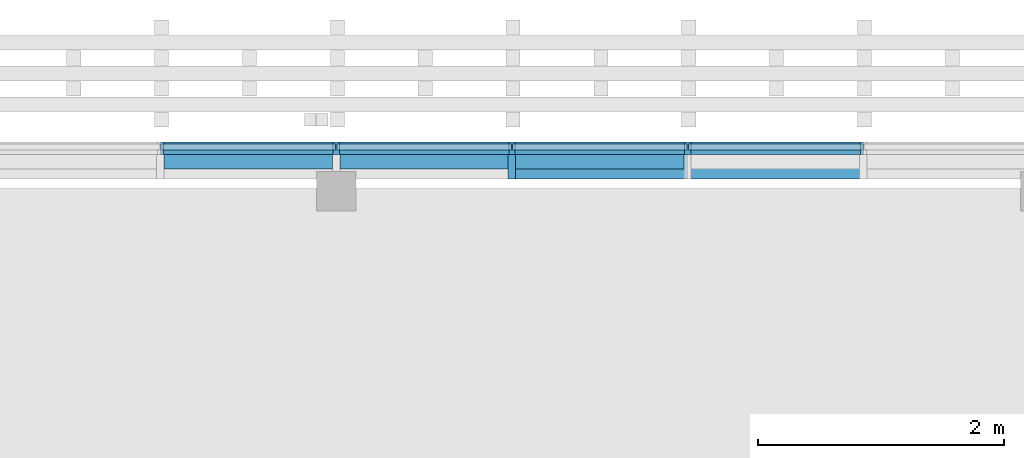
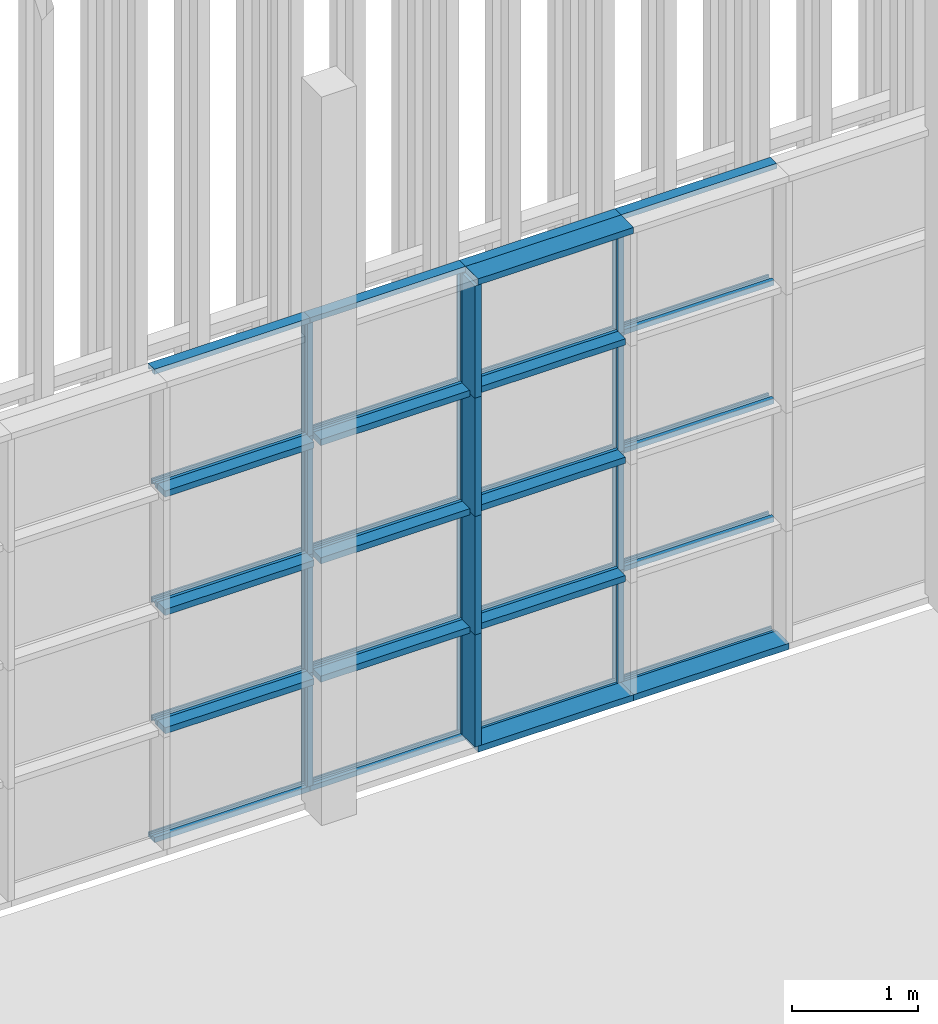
# One storey, part 34 of 260: 48 members, 2 elements without a shape of their own.
"""IFC2X3 building model written with IfcOpenShell, lengths in millimetres."""

from ifc_helpers import new_model, entity, si_unit, converted_unit, derived_unit, money_unit, direction, frame, origin_with_axes, place, context, subcontext, project, spatial, faceted_brep, source, transform, mapped, material, type_object, element, aggregate, save


model = new_model("IFC2X3")

# Units and contexts
model_context = context("Model", 3, precision=0.01, world=origin_with_axes(), true_north=direction((0.0, 1.0)))
body_context = subcontext(model_context, "Body", "Model", "MODEL_VIEW")
ifc_project = project(units=[si_unit("LENGTHUNIT", "METRE", prefix="MILLI"), si_unit("AREAUNIT", "SQUARE_METRE"), si_unit("VOLUMEUNIT", "CUBIC_METRE"), converted_unit("PLANEANGLEUNIT", "DEGREE", entity("IfcPlaneAngleMeasure", 0.0174532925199), si_unit("PLANEANGLEUNIT", "RADIAN"), dimensions=[0, 0, 0, 0, 0, 0, 0]), money_unit("EUR"), converted_unit("TIMEUNIT", "Year", entity("IfcTimeMeasure", 31556926.0), si_unit("TIMEUNIT", "SECOND"), dimensions=[0, 0, 1, 0, 0, 0, 0]), si_unit("MASSUNIT", "GRAM", prefix="KILO"), si_unit("THERMODYNAMICTEMPERATUREUNIT", "DEGREE_CELSIUS"), si_unit("LUMINOUSINTENSITYUNIT", "LUMEN"), si_unit("ENERGYUNIT", "JOULE", prefix="MEGA"), derived_unit("THERMALCONDUCTANCEUNIT", [(si_unit("POWERUNIT", "WATT"), 1), (si_unit("LENGTHUNIT", "METRE"), -1), (si_unit("THERMODYNAMICTEMPERATUREUNIT", "KELVIN"), -1)]), derived_unit("SPECIFICHEATCAPACITYUNIT", [(si_unit("ENERGYUNIT", "JOULE"), 1), (si_unit("MASSUNIT", "GRAM", prefix="KILO"), -1), (si_unit("THERMODYNAMICTEMPERATUREUNIT", "KELVIN"), -1)]), derived_unit("MASSDENSITYUNIT", [(si_unit("MASSUNIT", "GRAM", prefix="KILO"), 1), (si_unit("VOLUMEUNIT", "CUBIC_METRE"), -1)])], contexts=[model_context])

# Site, building, storey
site_placement = place(None, origin_with_axes())
site = spatial("IfcSite", under=ifc_project, at=site_placement, Name="Kolde pst 67a", CompositionType="ELEMENT")
building_placement = place(site_placement, origin_with_axes())
building = spatial("IfcBuilding", under=site, at=building_placement, Name="Riigigümnaasium", CompositionType="ELEMENT")
storey_placement = place(building_placement, origin_with_axes())
storey = spatial("IfcBuildingStorey", under=building, at=storey_placement, Name="1. korrus", CompositionType="ELEMENT", Elevation=0.0)

# Curtain wall, members
curtain_wall_type = type_object("IfcCurtainWallType", Name="Curtain Wall Type", PredefinedType="NOTDEFINED")
curtain_wall_1_placement = place(storey_placement, frame((10366.0828546, 84639.9999608, 0.0), z_axis=(0.0, 0.0, 1.0), x_axis=(1.0, 0.0, 0.0)))
curtain_wall_1 = element("IfcCurtainWall", 1, at=curtain_wall_1_placement, inside=storey, type_object=curtain_wall_type, Name="KLAASFASSAAD")
ifc_material_1 = material(Name="_METALL - alumiinium")
member_type_1 = type_object("IfcMemberType", Name="Boundary Frame 50 x 100", PredefinedType="MEMBER")
shared_shape_1 = source(origin_with_axes(), body_context, "Body", "Brep", [
    faceted_brep([(-30.0, -24.0, 1430.0), (-50.0, -24.0, 1430.0), (-50.0, -60.0, 1430.0), (0.0, -60.0, 1430.0), (0.0, 40.0, 1430.0), (-50.0, 40.0, 1430.0), (-50.0, 24.0, 1430.0), (-30.0, 24.0, 1430.0), (-30.0, -24.0, 0.0), (-50.0, -24.0, 0.0), (-50.0, -60.0, 0.0), (0.0, -60.0, 0.0), (0.0, 40.0, 0.0), (-50.0, 40.0, 0.0), (-50.0, 24.0, 0.0), (-30.0, 24.0, 0.0)], [[[0, 1, 2, 3, 4, 5, 6, 7]], [[0, 8, 9, 1]], [[9, 10, 2, 1]], [[10, 11, 3, 2]], [[11, 12, 4, 3]], [[12, 13, 5, 4]], [[6, 5, 13, 14]], [[14, 15, 7, 6]], [[7, 15, 8, 0]], [[8, 15, 14, 13, 12, 11, 10, 9]]]),
])
member_1_placement = place(curtain_wall_1_placement, frame((9295.0, 0.0, 0.0), z_axis=(1.0, 0.0, 0.0), x_axis=(0.0, 0.0, 1.0)))
member_1 = element("IfcMember", 2, at=member_1_placement, type_object=member_type_1, material=ifc_material_1, Name="RF RAAM SERV-083", ObjectType="MEMBER", context=body_context, shape_type="MappedRepresentation", body=[
    mapped(shared_shape_1, transform((0.0, 0.0, 0.0), x_axis=(-1.0, 0.0, 0.0), y_axis=(0.0, -1.0, 0.0), z_axis=(0.0, 0.0, 1.0))),
])
member_2_placement = place(curtain_wall_1_placement, frame((10725.0, 0.0, 0.0), z_axis=(1.0, 0.0, 0.0), x_axis=(0.0, 0.0, 1.0)))
member_2 = element("IfcMember", 3, at=member_2_placement, type_object=member_type_1, material=ifc_material_1, Name="RF RAAM SERV-084", ObjectType="MEMBER", context=body_context, shape_type="MappedRepresentation", body=[
    mapped(shared_shape_1, transform((0.0, 0.0, 0.0), x_axis=(-1.0, 0.0, 0.0), y_axis=(0.0, -1.0, 0.0), z_axis=(0.0, 0.0, 1.0))),
])
member_3_placement = place(curtain_wall_1_placement, frame((12155.0, 0.0, 0.0), z_axis=(1.0, 0.0, 0.0), x_axis=(0.0, 0.0, 1.0)))
member_3 = element("IfcMember", 4, at=member_3_placement, type_object=member_type_1, material=ifc_material_1, Name="RF RAAM SERV-085", ObjectType="MEMBER", context=body_context, shape_type="MappedRepresentation", body=[
    mapped(shared_shape_1, transform((0.0, 0.0, 0.0), x_axis=(-1.0, 0.0, 0.0), y_axis=(0.0, -1.0, 0.0), z_axis=(0.0, 0.0, 1.0))),
])
member_4_placement = place(curtain_wall_1_placement, frame((13585.0, 0.0, 0.0), z_axis=(1.0, 0.0, 0.0), x_axis=(0.0, 0.0, 1.0)))
member_4 = element("IfcMember", 5, at=member_4_placement, type_object=member_type_1, material=ifc_material_1, Name="RF RAAM SERV-086", ObjectType="MEMBER", context=body_context, shape_type="MappedRepresentation", body=[
    mapped(shared_shape_1, transform((0.0, 0.0, 0.0), x_axis=(-1.0, 0.0, 0.0), y_axis=(0.0, -1.0, 0.0), z_axis=(0.0, 0.0, 1.0))),
])
member_type_2 = type_object("IfcMemberType", Name="Transom Frame 50 x 100", PredefinedType="MEMBER")
shared_shape_2 = source(origin_with_axes(), body_context, "Body", "Brep", [
    faceted_brep([(5.0, -24.0, 1405.0), (5.0, 24.0, 1405.0), (25.0, 24.0, 1405.0), (25.0, 40.0, 1405.0), (-25.0, 40.0, 1405.0), (-25.0, 24.0, 1405.0), (-5.0, 24.0, 1405.0), (-5.0, -24.0, 1405.0), (-25.0, -24.0, 1405.0), (-25.0, -60.0, 1405.0), (25.0, -60.0, 1405.0), (25.0, -24.0, 1405.0), (5.0, -24.0, 25.0), (5.0, 24.0, 25.0), (25.0, 24.0, 25.0), (25.0, 40.0, 25.0), (-25.0, 40.0, 25.0), (-25.0, 24.0, 25.0), (-5.0, 24.0, 25.0), (-5.0, -24.0, 25.0), (-25.0, -24.0, 25.0), (-25.0, -60.0, 25.0), (25.0, -60.0, 25.0), (25.0, -24.0, 25.0)], [[[0, 1, 2, 3, 4, 5, 6, 7, 8, 9, 10, 11]], [[0, 12, 13, 1]], [[1, 13, 14, 2]], [[14, 15, 3, 2]], [[4, 3, 15, 16]], [[17, 5, 4, 16]], [[5, 17, 18, 6]], [[7, 6, 18, 19]], [[8, 7, 19, 20]], [[8, 20, 21, 9]], [[10, 9, 21, 22]], [[11, 10, 22, 23]], [[11, 23, 12, 0]], [[13, 12, 23, 22, 21, 20, 19, 18, 17, 16, 15, 14]]]),
])
member_5_placement = place(curtain_wall_1_placement, frame((9295.0, 0.0, 1150.0), z_axis=(1.0, 0.0, 0.0), x_axis=(0.0, 0.0, 1.0)))
member_5 = element("IfcMember", 6, at=member_5_placement, type_object=member_type_2, material=ifc_material_1, Name="RF RAAM HOR-798", ObjectType="MEMBER", context=body_context, shape_type="MappedRepresentation", body=[
    mapped(shared_shape_2, transform((0.0, 0.0, 0.0), x_axis=(-1.0, 0.0, 0.0), y_axis=(0.0, -1.0, 0.0), z_axis=(0.0, 0.0, 1.0))),
])
member_6_placement = place(curtain_wall_1_placement, frame((10725.0, 0.0, 1150.0), z_axis=(1.0, 0.0, 0.0), x_axis=(0.0, 0.0, 1.0)))
member_6 = element("IfcMember", 7, at=member_6_placement, type_object=member_type_2, material=ifc_material_1, Name="RF RAAM HOR-798", ObjectType="MEMBER", context=body_context, shape_type="MappedRepresentation", body=[
    mapped(shared_shape_2, transform((0.0, 0.0, 0.0), x_axis=(-1.0, 0.0, 0.0), y_axis=(0.0, -1.0, 0.0), z_axis=(0.0, 0.0, 1.0))),
])
member_7_placement = place(curtain_wall_1_placement, frame((12155.0, 0.0, 1150.0), z_axis=(1.0, 0.0, 0.0), x_axis=(0.0, 0.0, 1.0)))
member_7 = element("IfcMember", 8, at=member_7_placement, type_object=member_type_2, material=ifc_material_1, Name="RF RAAM HOR-798", ObjectType="MEMBER", context=body_context, shape_type="MappedRepresentation", body=[
    mapped(shared_shape_2, transform((0.0, 0.0, 0.0), x_axis=(-1.0, 0.0, 0.0), y_axis=(0.0, -1.0, 0.0), z_axis=(0.0, 0.0, 1.0))),
])
member_8_placement = place(curtain_wall_1_placement, frame((13585.0, 0.0, 1150.0), z_axis=(1.0, 0.0, 0.0), x_axis=(0.0, 0.0, 1.0)))
member_8 = element("IfcMember", 9, at=member_8_placement, type_object=member_type_2, material=ifc_material_1, Name="RF RAAM HOR-798", ObjectType="MEMBER", context=body_context, shape_type="MappedRepresentation", body=[
    mapped(shared_shape_2, transform((0.0, 0.0, 0.0), x_axis=(-1.0, 0.0, 0.0), y_axis=(0.0, -1.0, 0.0), z_axis=(0.0, 0.0, 1.0))),
])
member_9_placement = place(curtain_wall_1_placement, frame((9295.0, 0.0, 2300.0), z_axis=(1.0, 0.0, 0.0), x_axis=(0.0, 0.0, 1.0)))
member_9 = element("IfcMember", 10, at=member_9_placement, type_object=member_type_2, material=ifc_material_1, Name="RF RAAM HOR-798", ObjectType="MEMBER", context=body_context, shape_type="MappedRepresentation", body=[
    mapped(shared_shape_2, transform((0.0, 0.0, 0.0), x_axis=(-1.0, 0.0, 0.0), y_axis=(0.0, -1.0, 0.0), z_axis=(0.0, 0.0, 1.0))),
])
member_10_placement = place(curtain_wall_1_placement, frame((10725.0, 0.0, 2300.0), z_axis=(1.0, 0.0, 0.0), x_axis=(0.0, 0.0, 1.0)))
member_10 = element("IfcMember", 11, at=member_10_placement, type_object=member_type_2, material=ifc_material_1, Name="RF RAAM HOR-798", ObjectType="MEMBER", context=body_context, shape_type="MappedRepresentation", body=[
    mapped(shared_shape_2, transform((0.0, 0.0, 0.0), x_axis=(-1.0, 0.0, 0.0), y_axis=(0.0, -1.0, 0.0), z_axis=(0.0, 0.0, 1.0))),
])
member_11_placement = place(curtain_wall_1_placement, frame((12155.0, 0.0, 2300.0), z_axis=(1.0, 0.0, 0.0), x_axis=(0.0, 0.0, 1.0)))
member_11 = element("IfcMember", 12, at=member_11_placement, type_object=member_type_2, material=ifc_material_1, Name="RF RAAM HOR-798", ObjectType="MEMBER", context=body_context, shape_type="MappedRepresentation", body=[
    mapped(shared_shape_2, transform((0.0, 0.0, 0.0), x_axis=(-1.0, 0.0, 0.0), y_axis=(0.0, -1.0, 0.0), z_axis=(0.0, 0.0, 1.0))),
])
member_12_placement = place(curtain_wall_1_placement, frame((13585.0, 0.0, 2300.0), z_axis=(1.0, 0.0, 0.0), x_axis=(0.0, 0.0, 1.0)))
member_12 = element("IfcMember", 13, at=member_12_placement, type_object=member_type_2, material=ifc_material_1, Name="RF RAAM HOR-798", ObjectType="MEMBER", context=body_context, shape_type="MappedRepresentation", body=[
    mapped(shared_shape_2, transform((0.0, 0.0, 0.0), x_axis=(-1.0, 0.0, 0.0), y_axis=(0.0, -1.0, 0.0), z_axis=(0.0, 0.0, 1.0))),
])
member_13_placement = place(curtain_wall_1_placement, frame((9295.0, 0.0, 3450.0), z_axis=(1.0, 0.0, 0.0), x_axis=(0.0, 0.0, 1.0)))
member_13 = element("IfcMember", 14, at=member_13_placement, type_object=member_type_2, material=ifc_material_1, Name="RF RAAM HOR-798", ObjectType="MEMBER", context=body_context, shape_type="MappedRepresentation", body=[
    mapped(shared_shape_2, transform((0.0, 0.0, 0.0), x_axis=(-1.0, 0.0, 0.0), y_axis=(0.0, -1.0, 0.0), z_axis=(0.0, 0.0, 1.0))),
])
member_14_placement = place(curtain_wall_1_placement, frame((10725.0, 0.0, 3450.0), z_axis=(1.0, 0.0, 0.0), x_axis=(0.0, 0.0, 1.0)))
member_14 = element("IfcMember", 15, at=member_14_placement, type_object=member_type_2, material=ifc_material_1, Name="RF RAAM HOR-798", ObjectType="MEMBER", context=body_context, shape_type="MappedRepresentation", body=[
    mapped(shared_shape_2, transform((0.0, 0.0, 0.0), x_axis=(-1.0, 0.0, 0.0), y_axis=(0.0, -1.0, 0.0), z_axis=(0.0, 0.0, 1.0))),
])
member_15_placement = place(curtain_wall_1_placement, frame((12155.0, 0.0, 3450.0), z_axis=(1.0, 0.0, 0.0), x_axis=(0.0, 0.0, 1.0)))
member_15 = element("IfcMember", 16, at=member_15_placement, type_object=member_type_2, material=ifc_material_1, Name="RF RAAM HOR-798", ObjectType="MEMBER", context=body_context, shape_type="MappedRepresentation", body=[
    mapped(shared_shape_2, transform((0.0, 0.0, 0.0), x_axis=(-1.0, 0.0, 0.0), y_axis=(0.0, -1.0, 0.0), z_axis=(0.0, 0.0, 1.0))),
])
member_16_placement = place(curtain_wall_1_placement, frame((13585.0, 0.0, 3450.0), z_axis=(1.0, 0.0, 0.0), x_axis=(0.0, 0.0, 1.0)))
member_16 = element("IfcMember", 17, at=member_16_placement, type_object=member_type_2, material=ifc_material_1, Name="RF RAAM HOR-798", ObjectType="MEMBER", context=body_context, shape_type="MappedRepresentation", body=[
    mapped(shared_shape_2, transform((0.0, 0.0, 0.0), x_axis=(-1.0, 0.0, 0.0), y_axis=(0.0, -1.0, 0.0), z_axis=(0.0, 0.0, 1.0))),
])
member_type_3 = type_object("IfcMemberType", Name="Mullion Frame 50 x 100", PredefinedType="MEMBER")
shared_shape_3 = source(origin_with_axes(), body_context, "Body", "Brep", [
    faceted_brep([(5.0, -24.0, 1150.0), (5.0, 24.0, 1150.0), (25.0, 24.0, 1150.0), (25.0, 40.0, 1150.0), (-25.0, 40.0, 1150.0), (-25.0, 24.0, 1150.0), (-5.0, 24.0, 1150.0), (-5.0, -24.0, 1150.0), (-25.0, -24.0, 1150.0), (-25.0, -60.0, 1150.0), (25.0, -60.0, 1150.0), (25.0, -24.0, 1150.0), (5.0, -24.0, 50.0), (5.0, 24.0, 50.0), (25.0, 24.0, 50.0), (25.0, 40.0, 50.0), (-25.0, 40.0, 50.0), (-25.0, 24.0, 50.0), (-5.0, 24.0, 50.0), (-5.0, -24.0, 50.0), (-25.0, -24.0, 50.0), (-25.0, -60.0, 50.0), (25.0, -60.0, 50.0), (25.0, -24.0, 50.0)], [[[0, 1, 2, 3, 4, 5, 6, 7, 8, 9, 10, 11]], [[0, 12, 13, 1]], [[1, 13, 14, 2]], [[14, 15, 3, 2]], [[4, 3, 15, 16]], [[17, 5, 4, 16]], [[5, 17, 18, 6]], [[7, 6, 18, 19]], [[8, 7, 19, 20]], [[8, 20, 21, 9]], [[10, 9, 21, 22]], [[11, 10, 22, 23]], [[11, 23, 12, 0]], [[13, 12, 23, 22, 21, 20, 19, 18, 17, 16, 15, 14]]]),
])
member_17_placement = place(curtain_wall_1_placement, frame((10725.0, 0.0, 0.0), z_axis=(0.0, 0.0, 1.0), x_axis=(-1.0, 0.0, 0.0)))
member_17 = element("IfcMember", 18, at=member_17_placement, type_object=member_type_3, material=ifc_material_1, Name="RF RAAM VERT-904", ObjectType="MEMBER", context=body_context, shape_type="MappedRepresentation", body=[
    mapped(shared_shape_3, transform((0.0, 0.0, 0.0), x_axis=(-1.0, 0.0, 0.0), y_axis=(0.0, -1.0, 0.0), z_axis=(0.0, 0.0, 1.0))),
])
member_18_placement = place(curtain_wall_1_placement, frame((12155.0, 0.0, 0.0), z_axis=(0.0, 0.0, 1.0), x_axis=(-1.0, 0.0, 0.0)))
member_18 = element("IfcMember", 19, at=member_18_placement, type_object=member_type_3, material=ifc_material_1, Name="RF RAAM VERT-904", ObjectType="MEMBER", context=body_context, shape_type="MappedRepresentation", body=[
    mapped(shared_shape_3, transform((0.0, 0.0, 0.0), x_axis=(-1.0, 0.0, 0.0), y_axis=(0.0, -1.0, 0.0), z_axis=(0.0, 0.0, 1.0))),
])
member_19_placement = place(curtain_wall_1_placement, frame((13585.0, 0.0, 0.0), z_axis=(0.0, 0.0, 1.0), x_axis=(-1.0, 0.0, 0.0)))
member_19 = element("IfcMember", 20, at=member_19_placement, type_object=member_type_3, material=ifc_material_1, Name="RF RAAM VERT-904", ObjectType="MEMBER", context=body_context, shape_type="MappedRepresentation", body=[
    mapped(shared_shape_3, transform((0.0, 0.0, 0.0), x_axis=(-1.0, 0.0, 0.0), y_axis=(0.0, -1.0, 0.0), z_axis=(0.0, 0.0, 1.0))),
])
shared_shape_4 = source(origin_with_axes(), body_context, "Body", "Brep", [
    faceted_brep([(5.0, -24.0, 1150.0), (5.0, 24.0, 1150.0), (25.0, 24.0, 1150.0), (25.0, 40.0, 1150.0), (-25.0, 40.0, 1150.0), (-25.0, 24.0, 1150.0), (-5.0, 24.0, 1150.0), (-5.0, -24.0, 1150.0), (-25.0, -24.0, 1150.0), (-25.0, -60.0, 1150.0), (25.0, -60.0, 1150.0), (25.0, -24.0, 1150.0), (5.0, -24.0, 0.0), (5.0, 24.0, 0.0), (25.0, 24.0, 0.0), (25.0, 40.0, 0.0), (-25.0, 40.0, 0.0), (-25.0, 24.0, 0.0), (-5.0, 24.0, 0.0), (-5.0, -24.0, 0.0), (-25.0, -24.0, 0.0), (-25.0, -60.0, 0.0), (25.0, -60.0, 0.0), (25.0, -24.0, 0.0)], [[[0, 1, 2, 3, 4, 5, 6, 7, 8, 9, 10, 11]], [[0, 12, 13, 1]], [[1, 13, 14, 2]], [[14, 15, 3, 2]], [[3, 15, 16, 4]], [[17, 5, 4, 16]], [[5, 17, 18, 6]], [[7, 6, 18, 19]], [[8, 7, 19, 20]], [[8, 20, 21, 9]], [[9, 21, 22, 10]], [[11, 10, 22, 23]], [[11, 23, 12, 0]], [[13, 12, 23, 22, 21, 20, 19, 18, 17, 16, 15, 14]]]),
])
member_20_placement = place(curtain_wall_1_placement, frame((10725.0, 0.0, 1150.0), z_axis=(0.0, 0.0, 1.0), x_axis=(-1.0, 0.0, 0.0)))
member_20 = element("IfcMember", 21, at=member_20_placement, type_object=member_type_3, material=ifc_material_1, Name="RF RAAM VERT-904", ObjectType="MEMBER", context=body_context, shape_type="MappedRepresentation", body=[
    mapped(shared_shape_4, transform((0.0, 0.0, 0.0), x_axis=(-1.0, 0.0, 0.0), y_axis=(0.0, -1.0, 0.0), z_axis=(0.0, 0.0, 1.0))),
])
member_21_placement = place(curtain_wall_1_placement, frame((12155.0, 0.0, 1150.0), z_axis=(0.0, 0.0, 1.0), x_axis=(-1.0, 0.0, 0.0)))
member_21 = element("IfcMember", 22, at=member_21_placement, type_object=member_type_3, material=ifc_material_1, Name="RF RAAM VERT-904", ObjectType="MEMBER", context=body_context, shape_type="MappedRepresentation", body=[
    mapped(shared_shape_4, transform((0.0, 0.0, 0.0), x_axis=(-1.0, 0.0, 0.0), y_axis=(0.0, -1.0, 0.0), z_axis=(0.0, 0.0, 1.0))),
])
member_22_placement = place(curtain_wall_1_placement, frame((13585.0, 0.0, 1150.0), z_axis=(0.0, 0.0, 1.0), x_axis=(-1.0, 0.0, 0.0)))
member_22 = element("IfcMember", 23, at=member_22_placement, type_object=member_type_3, material=ifc_material_1, Name="RF RAAM VERT-904", ObjectType="MEMBER", context=body_context, shape_type="MappedRepresentation", body=[
    mapped(shared_shape_4, transform((0.0, 0.0, 0.0), x_axis=(-1.0, 0.0, 0.0), y_axis=(0.0, -1.0, 0.0), z_axis=(0.0, 0.0, 1.0))),
])
member_23_placement = place(curtain_wall_1_placement, frame((10725.0, 0.0, 2300.0), z_axis=(0.0, 0.0, 1.0), x_axis=(-1.0, 0.0, 0.0)))
member_23 = element("IfcMember", 24, at=member_23_placement, type_object=member_type_3, material=ifc_material_1, Name="RF RAAM VERT-904", ObjectType="MEMBER", context=body_context, shape_type="MappedRepresentation", body=[
    mapped(shared_shape_4, transform((0.0, 0.0, 0.0), x_axis=(-1.0, 0.0, 0.0), y_axis=(0.0, -1.0, 0.0), z_axis=(0.0, 0.0, 1.0))),
])
member_24_placement = place(curtain_wall_1_placement, frame((12155.0, 0.0, 2300.0), z_axis=(0.0, 0.0, 1.0), x_axis=(-1.0, 0.0, 0.0)))
member_24 = element("IfcMember", 25, at=member_24_placement, type_object=member_type_3, material=ifc_material_1, Name="RF RAAM VERT-904", ObjectType="MEMBER", context=body_context, shape_type="MappedRepresentation", body=[
    mapped(shared_shape_4, transform((0.0, 0.0, 0.0), x_axis=(-1.0, 0.0, 0.0), y_axis=(0.0, -1.0, 0.0), z_axis=(0.0, 0.0, 1.0))),
])
member_25_placement = place(curtain_wall_1_placement, frame((13585.0, 0.0, 2300.0), z_axis=(0.0, 0.0, 1.0), x_axis=(-1.0, 0.0, 0.0)))
member_25 = element("IfcMember", 26, at=member_25_placement, type_object=member_type_3, material=ifc_material_1, Name="RF RAAM VERT-904", ObjectType="MEMBER", context=body_context, shape_type="MappedRepresentation", body=[
    mapped(shared_shape_4, transform((0.0, 0.0, 0.0), x_axis=(-1.0, 0.0, 0.0), y_axis=(0.0, -1.0, 0.0), z_axis=(0.0, 0.0, 1.0))),
])
shared_shape_5 = source(origin_with_axes(), body_context, "Body", "Brep", [
    faceted_brep([(5.0, -24.0, 1100.0), (5.0, 24.0, 1100.0), (25.0, 24.0, 1100.0), (25.0, 40.0, 1100.0), (-25.0, 40.0, 1100.0), (-25.0, 24.0, 1100.0), (-5.0, 24.0, 1100.0), (-5.0, -24.0, 1100.0), (-25.0, -24.0, 1100.0), (-25.0, -60.0, 1100.0), (25.0, -60.0, 1100.0), (25.0, -24.0, 1100.0), (5.0, -24.0, 0.0), (5.0, 24.0, 0.0), (25.0, 24.0, 0.0), (25.0, 40.0, 0.0), (-25.0, 40.0, 0.0), (-25.0, 24.0, 0.0), (-5.0, 24.0, 0.0), (-5.0, -24.0, 0.0), (-25.0, -24.0, 0.0), (-25.0, -60.0, 0.0), (25.0, -60.0, 0.0), (25.0, -24.0, 0.0)], [[[0, 1, 2, 3, 4, 5, 6, 7, 8, 9, 10, 11]], [[0, 12, 13, 1]], [[1, 13, 14, 2]], [[14, 15, 3, 2]], [[3, 15, 16, 4]], [[17, 5, 4, 16]], [[5, 17, 18, 6]], [[7, 6, 18, 19]], [[8, 7, 19, 20]], [[8, 20, 21, 9]], [[9, 21, 22, 10]], [[11, 10, 22, 23]], [[11, 23, 12, 0]], [[13, 12, 23, 22, 21, 20, 19, 18, 17, 16, 15, 14]]]),
])
member_26_placement = place(curtain_wall_1_placement, frame((10725.0, 0.0, 3450.0), z_axis=(0.0, 0.0, 1.0), x_axis=(-1.0, 0.0, 0.0)))
member_26 = element("IfcMember", 27, at=member_26_placement, type_object=member_type_3, material=ifc_material_1, Name="RF RAAM VERT-232", ObjectType="MEMBER", context=body_context, shape_type="MappedRepresentation", body=[
    mapped(shared_shape_5, transform((0.0, 0.0, 0.0), x_axis=(-1.0, 0.0, 0.0), y_axis=(0.0, -1.0, 0.0), z_axis=(0.0, 0.0, 1.0))),
])
member_27_placement = place(curtain_wall_1_placement, frame((12155.0, 0.0, 3450.0), z_axis=(0.0, 0.0, 1.0), x_axis=(-1.0, 0.0, 0.0)))
member_27 = element("IfcMember", 28, at=member_27_placement, type_object=member_type_3, material=ifc_material_1, Name="RF RAAM VERT-233", ObjectType="MEMBER", context=body_context, shape_type="MappedRepresentation", body=[
    mapped(shared_shape_5, transform((0.0, 0.0, 0.0), x_axis=(-1.0, 0.0, 0.0), y_axis=(0.0, -1.0, 0.0), z_axis=(0.0, 0.0, 1.0))),
])
member_28_placement = place(curtain_wall_1_placement, frame((13585.0, 0.0, 3450.0), z_axis=(0.0, 0.0, 1.0), x_axis=(-1.0, 0.0, 0.0)))
member_28 = element("IfcMember", 29, at=member_28_placement, type_object=member_type_3, material=ifc_material_1, Name="RF RAAM VERT-234", ObjectType="MEMBER", context=body_context, shape_type="MappedRepresentation", body=[
    mapped(shared_shape_5, transform((0.0, 0.0, 0.0), x_axis=(-1.0, 0.0, 0.0), y_axis=(0.0, -1.0, 0.0), z_axis=(0.0, 0.0, 1.0))),
])
shared_shape_6 = source(origin_with_axes(), body_context, "Body", "Brep", [
    faceted_brep([(30.0, -24.0, 1430.0), (30.0, 24.0, 1430.0), (50.0, 24.0, 1430.0), (50.0, 40.0, 1430.0), (0.0, 40.0, 1430.0), (0.0, -60.0, 1430.0), (50.0, -60.0, 1430.0), (50.0, -24.0, 1430.0), (30.0, -24.0, 0.0), (30.0, 24.0, 0.0), (50.0, 24.0, 0.0), (50.0, 40.0, 0.0), (0.0, 40.0, 0.0), (0.0, -60.0, 0.0), (50.0, -60.0, 0.0), (50.0, -24.0, 0.0)], [[[0, 1, 2, 3, 4, 5, 6, 7]], [[1, 0, 8, 9]], [[10, 2, 1, 9]], [[2, 10, 11, 3]], [[12, 4, 3, 11]], [[13, 5, 4, 12]], [[14, 6, 5, 13]], [[15, 7, 6, 14]], [[0, 7, 15, 8]], [[8, 15, 14, 13, 12, 11, 10, 9]]]),
])
member_29_placement = place(curtain_wall_1_placement, frame((9295.0, 0.0, 4600.0), z_axis=(1.0, 0.0, 0.0), x_axis=(0.0, 0.0, 1.0)))
member_29 = element("IfcMember", 30, at=member_29_placement, type_object=member_type_1, material=ifc_material_1, Name="RF RAAM SERV-110", ObjectType="MEMBER", context=body_context, shape_type="MappedRepresentation", body=[
    mapped(shared_shape_6, transform((0.0, 0.0, 0.0), x_axis=(-1.0, 0.0, 0.0), y_axis=(0.0, -1.0, 0.0), z_axis=(0.0, 0.0, 1.0))),
])
member_30_placement = place(curtain_wall_1_placement, frame((10725.0, 0.0, 4600.0), z_axis=(1.0, 0.0, 0.0), x_axis=(0.0, 0.0, 1.0)))
member_30 = element("IfcMember", 31, at=member_30_placement, type_object=member_type_1, material=ifc_material_1, Name="RF RAAM SERV-109", ObjectType="MEMBER", context=body_context, shape_type="MappedRepresentation", body=[
    mapped(shared_shape_6, transform((0.0, 0.0, 0.0), x_axis=(-1.0, 0.0, 0.0), y_axis=(0.0, -1.0, 0.0), z_axis=(0.0, 0.0, 1.0))),
])
member_31_placement = place(curtain_wall_1_placement, frame((12155.0, 0.0, 4600.0), z_axis=(1.0, 0.0, 0.0), x_axis=(0.0, 0.0, 1.0)))
member_31 = element("IfcMember", 32, at=member_31_placement, type_object=member_type_1, material=ifc_material_1, Name="RF RAAM SERV-108", ObjectType="MEMBER", context=body_context, shape_type="MappedRepresentation", body=[
    mapped(shared_shape_6, transform((0.0, 0.0, 0.0), x_axis=(-1.0, 0.0, 0.0), y_axis=(0.0, -1.0, 0.0), z_axis=(0.0, 0.0, 1.0))),
])
member_32_placement = place(curtain_wall_1_placement, frame((13585.0, 0.0, 4600.0), z_axis=(1.0, 0.0, 0.0), x_axis=(0.0, 0.0, 1.0)))
member_32 = element("IfcMember", 33, at=member_32_placement, type_object=member_type_1, material=ifc_material_1, Name="RF RAAM SERV-107", ObjectType="MEMBER", context=body_context, shape_type="MappedRepresentation", body=[
    mapped(shared_shape_6, transform((0.0, 0.0, 0.0), x_axis=(-1.0, 0.0, 0.0), y_axis=(0.0, -1.0, 0.0), z_axis=(0.0, 0.0, 1.0))),
])
aggregate(curtain_wall_1, [member_1, member_2, member_17, member_3, member_18, member_4, member_19, member_5, member_6, member_20, member_7, member_21, member_8, member_22, member_9, member_10, member_23, member_11, member_24, member_12, member_25, member_13, member_14, member_15, member_16, member_26, member_27, member_28, member_29, member_30, member_31, member_32])

curtain_wall_2_placement = place(storey_placement, frame((7516.12873899, 84579.9999608, 0.0), z_axis=(0.0, 0.0, 1.0), x_axis=(1.0, 0.0, 0.0)))
curtain_wall_2 = element("IfcCurtainWall", 34, at=curtain_wall_2_placement, inside=storey, type_object=curtain_wall_type, Name="Klaasfassaadi puitkarkass")
ifc_material_2 = material(Name="_KANDETARIND - liimpuit vastavalt EK osale")
member_type_4 = type_object("IfcMemberType", Name="Mullion Frame 60 x 200", PredefinedType="MEMBER")
shared_shape_7 = source(origin_with_axes(), body_context, "Body", "Brep", [
    faceted_brep([(-30.0, -200.0, 0.0), (-30.0, -200.0, 1090.0), (-30.0, 0.0, 1090.0), (-30.0, 0.0, 0.0), (30.0, -200.0, 0.0), (30.0, -200.0, 1090.0), (30.0, 0.0, 1090.0), (30.0, 0.0, 0.0)], [[[0, 1, 2, 3]], [[4, 5, 1, 0]], [[1, 5, 6, 2]], [[3, 2, 6, 7]], [[0, 3, 7, 4]], [[7, 6, 5, 4]]]),
])
member_33_placement = place(curtain_wall_2_placement, frame((15003.6284674, 0.0, 3450.0), z_axis=(0.0, 0.0, 1.0), x_axis=(-1.0, 0.0, 0.0)))
member_33 = element("IfcMember", 35, at=member_33_placement, type_object=member_type_4, material=ifc_material_2, Name="RF RAAM VERT-681", ObjectType="MEMBER", context=body_context, shape_type="MappedRepresentation", body=[
    mapped(shared_shape_7, transform((0.0, 0.0, 0.0), x_axis=(-1.0, 0.0, 0.0), y_axis=(0.0, -1.0, 0.0), z_axis=(0.0, 0.0, 1.0))),
])
member_type_5 = type_object("IfcMemberType", Name="Boundary Frame 60 x 200", PredefinedType="MEMBER")
shared_shape_8 = source(origin_with_axes(), body_context, "Body", "Brep", [
    faceted_brep([(-60.0, -200.0, 0.0), (-60.0, -200.0, 1430.0), (-60.0, 0.0, 1430.0), (-60.0, 0.0, 0.0), (0.0, -200.0, 0.0), (0.0, -200.0, 1430.0), (0.0, 0.0, 1430.0), (0.0, 0.0, 0.0)], [[[0, 1, 2, 3]], [[4, 5, 1, 0]], [[1, 5, 6, 2]], [[3, 2, 6, 7]], [[0, 3, 7, 4]], [[7, 6, 5, 4]]]),
])
member_34_placement = place(curtain_wall_2_placement, frame((15003.6284674, 0.0, 0.0), z_axis=(1.0, 0.0, 0.0), x_axis=(0.0, 0.0, 1.0)))
member_34 = element("IfcMember", 36, at=member_34_placement, type_object=member_type_5, material=ifc_material_2, Name="RF RAAM SERV-421", ObjectType="MEMBER", context=body_context, shape_type="MappedRepresentation", body=[
    mapped(shared_shape_8, transform((0.0, 0.0, 0.0), x_axis=(-1.0, 0.0, 0.0), y_axis=(0.0, -1.0, 0.0), z_axis=(0.0, 0.0, 1.0))),
])
member_35_placement = place(curtain_wall_2_placement, frame((16433.6284674, 0.0, 0.0), z_axis=(1.0, 0.0, 0.0), x_axis=(0.0, 0.0, 1.0)))
member_35 = element("IfcMember", 37, at=member_35_placement, type_object=member_type_5, material=ifc_material_2, Name="RF RAAM SERV-422", ObjectType="MEMBER", context=body_context, shape_type="MappedRepresentation", body=[
    mapped(shared_shape_8, transform((0.0, 0.0, 0.0), x_axis=(-1.0, 0.0, 0.0), y_axis=(0.0, -1.0, 0.0), z_axis=(0.0, 0.0, 1.0))),
])
shared_shape_9 = source(origin_with_axes(), body_context, "Body", "Brep", [
    faceted_brep([(-30.0, 0.0, 60.0), (-30.0, -200.0, 60.0), (-30.0, -200.0, 1150.0), (-30.0, 0.0, 1150.0), (30.0, 0.0, 60.0), (30.0, -200.0, 60.0), (30.0, -200.0, 1150.0), (30.0, 0.0, 1150.0)], [[[0, 1, 2, 3]], [[1, 0, 4, 5]], [[1, 5, 6, 2]], [[2, 6, 7, 3]], [[4, 0, 3, 7]], [[5, 4, 7, 6]]]),
])
member_36_placement = place(curtain_wall_2_placement, frame((15003.6284674, 0.0, 0.0), z_axis=(0.0, 0.0, 1.0), x_axis=(-1.0, 0.0, 0.0)))
member_36 = element("IfcMember", 38, at=member_36_placement, type_object=member_type_4, material=ifc_material_2, Name="RF RAAM VERT-466", ObjectType="MEMBER", context=body_context, shape_type="MappedRepresentation", body=[
    mapped(shared_shape_9, transform((0.0, 0.0, 0.0), x_axis=(-1.0, 0.0, 0.0), y_axis=(0.0, -1.0, 0.0), z_axis=(0.0, 0.0, 1.0))),
])
member_type_6 = type_object("IfcMemberType", Name="Transom Frame 60 x 120", PredefinedType="MEMBER")
shared_shape_10 = source(origin_with_axes(), body_context, "Body", "Brep", [
    faceted_brep([(-30.0, 0.0, 30.0), (-30.0, -120.0, 30.0), (-30.0, -120.0, 1400.0), (-30.0, 0.0, 1400.0), (30.0, 0.0, 30.0), (30.0, -120.0, 30.0), (30.0, -120.0, 1400.0), (30.0, 0.0, 1400.0)], [[[0, 1, 2, 3]], [[1, 0, 4, 5]], [[1, 5, 6, 2]], [[2, 6, 7, 3]], [[4, 0, 3, 7]], [[5, 4, 7, 6]]]),
])
member_37_placement = place(curtain_wall_2_placement, frame((12143.6284674, 0.0, 1150.0), z_axis=(1.0, 0.0, 0.0), x_axis=(0.0, 0.0, 1.0)))
member_37 = element("IfcMember", 39, at=member_37_placement, type_object=member_type_6, material=ifc_material_2, Name="RF RAAM HOR-459", ObjectType="MEMBER", context=body_context, shape_type="MappedRepresentation", body=[
    mapped(shared_shape_10, transform((0.0, 0.0, 0.0), x_axis=(-1.0, 0.0, 0.0), y_axis=(0.0, -1.0, 0.0), z_axis=(0.0, 0.0, 1.0))),
])
member_38_placement = place(curtain_wall_2_placement, frame((13573.6284674, 0.0, 1150.0), z_axis=(1.0, 0.0, 0.0), x_axis=(0.0, 0.0, 1.0)))
member_38 = element("IfcMember", 40, at=member_38_placement, type_object=member_type_6, material=ifc_material_2, Name="RF RAAM HOR-460", ObjectType="MEMBER", context=body_context, shape_type="MappedRepresentation", body=[
    mapped(shared_shape_10, transform((0.0, 0.0, 0.0), x_axis=(-1.0, 0.0, 0.0), y_axis=(0.0, -1.0, 0.0), z_axis=(0.0, 0.0, 1.0))),
])
member_39_placement = place(curtain_wall_2_placement, frame((15003.6284674, 0.0, 1150.0), z_axis=(1.0, 0.0, 0.0), x_axis=(0.0, 0.0, 1.0)))
member_39 = element("IfcMember", 41, at=member_39_placement, type_object=member_type_6, material=ifc_material_2, Name="RF RAAM HOR-461", ObjectType="MEMBER", context=body_context, shape_type="MappedRepresentation", body=[
    mapped(shared_shape_10, transform((0.0, 0.0, 0.0), x_axis=(-1.0, 0.0, 0.0), y_axis=(0.0, -1.0, 0.0), z_axis=(0.0, 0.0, 1.0))),
])
member_40_placement = place(curtain_wall_2_placement, frame((12143.6284674, 0.0, 2300.0), z_axis=(1.0, 0.0, 0.0), x_axis=(0.0, 0.0, 1.0)))
member_40 = element("IfcMember", 42, at=member_40_placement, type_object=member_type_6, material=ifc_material_2, Name="RF RAAM HOR-482", ObjectType="MEMBER", context=body_context, shape_type="MappedRepresentation", body=[
    mapped(shared_shape_10, transform((0.0, 0.0, 0.0), x_axis=(-1.0, 0.0, 0.0), y_axis=(0.0, -1.0, 0.0), z_axis=(0.0, 0.0, 1.0))),
])
member_41_placement = place(curtain_wall_2_placement, frame((13573.6284674, 0.0, 2300.0), z_axis=(1.0, 0.0, 0.0), x_axis=(0.0, 0.0, 1.0)))
member_41 = element("IfcMember", 43, at=member_41_placement, type_object=member_type_6, material=ifc_material_2, Name="RF RAAM HOR-483", ObjectType="MEMBER", context=body_context, shape_type="MappedRepresentation", body=[
    mapped(shared_shape_10, transform((0.0, 0.0, 0.0), x_axis=(-1.0, 0.0, 0.0), y_axis=(0.0, -1.0, 0.0), z_axis=(0.0, 0.0, 1.0))),
])
member_42_placement = place(curtain_wall_2_placement, frame((15003.6284674, 0.0, 2300.0), z_axis=(1.0, 0.0, 0.0), x_axis=(0.0, 0.0, 1.0)))
member_42 = element("IfcMember", 44, at=member_42_placement, type_object=member_type_6, material=ifc_material_2, Name="RF RAAM HOR-484", ObjectType="MEMBER", context=body_context, shape_type="MappedRepresentation", body=[
    mapped(shared_shape_10, transform((0.0, 0.0, 0.0), x_axis=(-1.0, 0.0, 0.0), y_axis=(0.0, -1.0, 0.0), z_axis=(0.0, 0.0, 1.0))),
])
member_43_placement = place(curtain_wall_2_placement, frame((12143.6284674, 0.0, 3450.0), z_axis=(1.0, 0.0, 0.0), x_axis=(0.0, 0.0, 1.0)))
member_43 = element("IfcMember", 45, at=member_43_placement, type_object=member_type_6, material=ifc_material_2, Name="RF RAAM HOR-505", ObjectType="MEMBER", context=body_context, shape_type="MappedRepresentation", body=[
    mapped(shared_shape_10, transform((0.0, 0.0, 0.0), x_axis=(-1.0, 0.0, 0.0), y_axis=(0.0, -1.0, 0.0), z_axis=(0.0, 0.0, 1.0))),
])
member_44_placement = place(curtain_wall_2_placement, frame((13573.6284674, 0.0, 3450.0), z_axis=(1.0, 0.0, 0.0), x_axis=(0.0, 0.0, 1.0)))
member_44 = element("IfcMember", 46, at=member_44_placement, type_object=member_type_6, material=ifc_material_2, Name="RF RAAM HOR-506", ObjectType="MEMBER", context=body_context, shape_type="MappedRepresentation", body=[
    mapped(shared_shape_10, transform((0.0, 0.0, 0.0), x_axis=(-1.0, 0.0, 0.0), y_axis=(0.0, -1.0, 0.0), z_axis=(0.0, 0.0, 1.0))),
])
member_45_placement = place(curtain_wall_2_placement, frame((15003.6284674, 0.0, 3450.0), z_axis=(1.0, 0.0, 0.0), x_axis=(0.0, 0.0, 1.0)))
member_45 = element("IfcMember", 47, at=member_45_placement, type_object=member_type_6, material=ifc_material_2, Name="RF RAAM HOR-507", ObjectType="MEMBER", context=body_context, shape_type="MappedRepresentation", body=[
    mapped(shared_shape_10, transform((0.0, 0.0, 0.0), x_axis=(-1.0, 0.0, 0.0), y_axis=(0.0, -1.0, 0.0), z_axis=(0.0, 0.0, 1.0))),
])
shared_shape_11 = source(origin_with_axes(), body_context, "Body", "Brep", [
    faceted_brep([(-30.0, -200.0, 0.0), (-30.0, -200.0, 1150.0), (-30.0, 0.0, 1150.0), (-30.0, 0.0, 0.0), (30.0, -200.0, 0.0), (30.0, -200.0, 1150.0), (30.0, 0.0, 1150.0), (30.0, 0.0, 0.0)], [[[0, 1, 2, 3]], [[4, 5, 1, 0]], [[1, 5, 6, 2]], [[3, 2, 6, 7]], [[0, 3, 7, 4]], [[7, 6, 5, 4]]]),
])
member_46_placement = place(curtain_wall_2_placement, frame((15003.6284674, 0.0, 1150.0), z_axis=(0.0, 0.0, 1.0), x_axis=(-1.0, 0.0, 0.0)))
member_46 = element("IfcMember", 48, at=member_46_placement, type_object=member_type_4, material=ifc_material_2, Name="RF RAAM VERT-488", ObjectType="MEMBER", context=body_context, shape_type="MappedRepresentation", body=[
    mapped(shared_shape_11, transform((0.0, 0.0, 0.0), x_axis=(-1.0, 0.0, 0.0), y_axis=(0.0, -1.0, 0.0), z_axis=(0.0, 0.0, 1.0))),
])
member_47_placement = place(curtain_wall_2_placement, frame((15003.6284674, 0.0, 2300.0), z_axis=(0.0, 0.0, 1.0), x_axis=(-1.0, 0.0, 0.0)))
member_47 = element("IfcMember", 49, at=member_47_placement, type_object=member_type_4, material=ifc_material_2, Name="RF RAAM VERT-510", ObjectType="MEMBER", context=body_context, shape_type="MappedRepresentation", body=[
    mapped(shared_shape_11, transform((0.0, 0.0, 0.0), x_axis=(-1.0, 0.0, 0.0), y_axis=(0.0, -1.0, 0.0), z_axis=(0.0, 0.0, 1.0))),
])
shared_shape_12 = source(origin_with_axes(), body_context, "Body", "Brep", [
    faceted_brep([(60.0, -200.0, 0.0), (60.0, 0.0, 0.0), (60.0, 0.0, 1430.0), (60.0, -200.0, 1430.0), (0.0, -200.0, 0.0), (0.0, 0.0, 0.0), (0.0, 0.0, 1430.0), (0.0, -200.0, 1430.0)], [[[0, 1, 2, 3]], [[0, 4, 5, 1]], [[1, 5, 6, 2]], [[3, 2, 6, 7]], [[4, 0, 3, 7]], [[5, 4, 7, 6]]]),
])
member_48_placement = place(curtain_wall_2_placement, frame((15003.6284674, 0.0, 4600.0), z_axis=(1.0, 0.0, 0.0), x_axis=(0.0, 0.0, 1.0)))
member_48 = element("IfcMember", 50, at=member_48_placement, type_object=member_type_5, material=ifc_material_2, Name="RF RAAM SERV-444", ObjectType="MEMBER", context=body_context, shape_type="MappedRepresentation", body=[
    mapped(shared_shape_12, transform((0.0, 0.0, 0.0), x_axis=(-1.0, 0.0, 0.0), y_axis=(0.0, -1.0, 0.0), z_axis=(0.0, 0.0, 1.0))),
])
aggregate(curtain_wall_2, [member_34, member_36, member_35, member_37, member_38, member_39, member_46, member_40, member_41, member_42, member_47, member_43, member_44, member_45, member_33, member_48])

save(model, "model.ifc")
